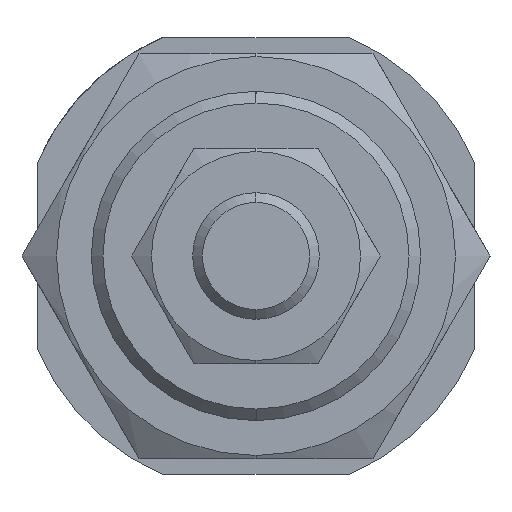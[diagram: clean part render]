
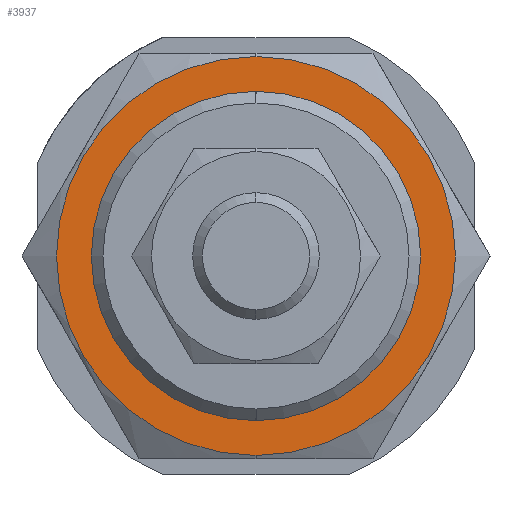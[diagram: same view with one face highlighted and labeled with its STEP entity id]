
A CAD part, left-side view. The second image highlights one B-rep face of the part: STEP entity #3937.
In plain terms, the highlighted planar face has unit normal (-1, 0, 0).
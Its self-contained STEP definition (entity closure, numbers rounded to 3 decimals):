
#341 = CIRCLE ( 'NONE', #5308, 15.75 ) ;
#428 = DIRECTION ( 'NONE',  ( 1., 0., 0. ) ) ;
#441 = EDGE_CURVE ( 'NONE', #3507, #699, #4248, .T. ) ;
#608 = DIRECTION ( 'NONE',  ( 0., 0., -1. ) ) ;
#635 = VERTEX_POINT ( 'NONE', #3021 ) ;
#699 = VERTEX_POINT ( 'NONE', #1517 ) ;
#808 = ORIENTED_EDGE ( 'NONE', *, *, #441, .T. ) ;
#856 = DIRECTION ( 'NONE',  ( 1., 0., 0. ) ) ;
#1012 = CARTESIAN_POINT ( 'NONE',  ( -11., 0., 0. ) ) ;
#1105 = FACE_OUTER_BOUND ( 'NONE', #1453, .T. ) ;
#1170 = AXIS2_PLACEMENT_3D ( 'NONE', #2731, #4853, #608 ) ;
#1246 = CARTESIAN_POINT ( 'NONE',  ( -11., 0., 0. ) ) ;
#1443 = EDGE_CURVE ( 'NONE', #699, #3507, #4962, .T. ) ;
#1453 = EDGE_LOOP ( 'NONE', ( #4509, #3411 ) ) ;
#1517 = CARTESIAN_POINT ( 'NONE',  ( -11., 0., -13. ) ) ;
#1560 = CARTESIAN_POINT ( 'NONE',  ( -11., 0., 0. ) ) ;
#2187 = AXIS2_PLACEMENT_3D ( 'NONE', #2516, #856, #2456 ) ;
#2237 = EDGE_LOOP ( 'NONE', ( #808, #4856 ) ) ;
#2456 = DIRECTION ( 'NONE',  ( 0., 0., -1. ) ) ;
#2516 = CARTESIAN_POINT ( 'NONE',  ( -11., 0., 0. ) ) ;
#2671 = DIRECTION ( 'NONE',  ( 1., 0., 0. ) ) ;
#2731 = CARTESIAN_POINT ( 'NONE',  ( -11., 0., 0. ) ) ;
#2740 = CARTESIAN_POINT ( 'NONE',  ( -11., 0., 15.75 ) ) ;
#2821 = CIRCLE ( 'NONE', #1170, 15.75 ) ;
#2825 = CARTESIAN_POINT ( 'NONE',  ( -11., 0., 13. ) ) ;
#2850 = DIRECTION ( 'NONE',  ( 0., 0., -1. ) ) ;
#3021 = CARTESIAN_POINT ( 'NONE',  ( -11., 0., -15.75 ) ) ;
#3145 = DIRECTION ( 'NONE',  ( 1., 0., 0. ) ) ;
#3411 = ORIENTED_EDGE ( 'NONE', *, *, #4567, .F. ) ;
#3507 = VERTEX_POINT ( 'NONE', #2825 ) ;
#3937 = ADVANCED_FACE ( 'NONE', ( #1105, #5298 ), #4423, .F. ) ;
#3960 = VERTEX_POINT ( 'NONE', #2740 ) ;
#3964 = DIRECTION ( 'NONE',  ( 0., 1., 0. ) ) ;
#4248 = CIRCLE ( 'NONE', #4928, 13. ) ;
#4328 = DIRECTION ( 'NONE',  ( 0., 0., -1. ) ) ;
#4423 = PLANE ( 'NONE',  #4606 ) ;
#4509 = ORIENTED_EDGE ( 'NONE', *, *, #5381, .F. ) ;
#4567 = EDGE_CURVE ( 'NONE', #3960, #635, #341, .T. ) ;
#4606 = AXIS2_PLACEMENT_3D ( 'NONE', #1560, #3145, #3964 ) ;
#4853 = DIRECTION ( 'NONE',  ( 1., 0., 0. ) ) ;
#4856 = ORIENTED_EDGE ( 'NONE', *, *, #1443, .T. ) ;
#4928 = AXIS2_PLACEMENT_3D ( 'NONE', #1246, #428, #2850 ) ;
#4962 = CIRCLE ( 'NONE', #2187, 13. ) ;
#5298 = FACE_BOUND ( 'NONE', #2237, .T. ) ;
#5308 = AXIS2_PLACEMENT_3D ( 'NONE', #1012, #2671, #4328 ) ;
#5381 = EDGE_CURVE ( 'NONE', #635, #3960, #2821, .T. ) ;
